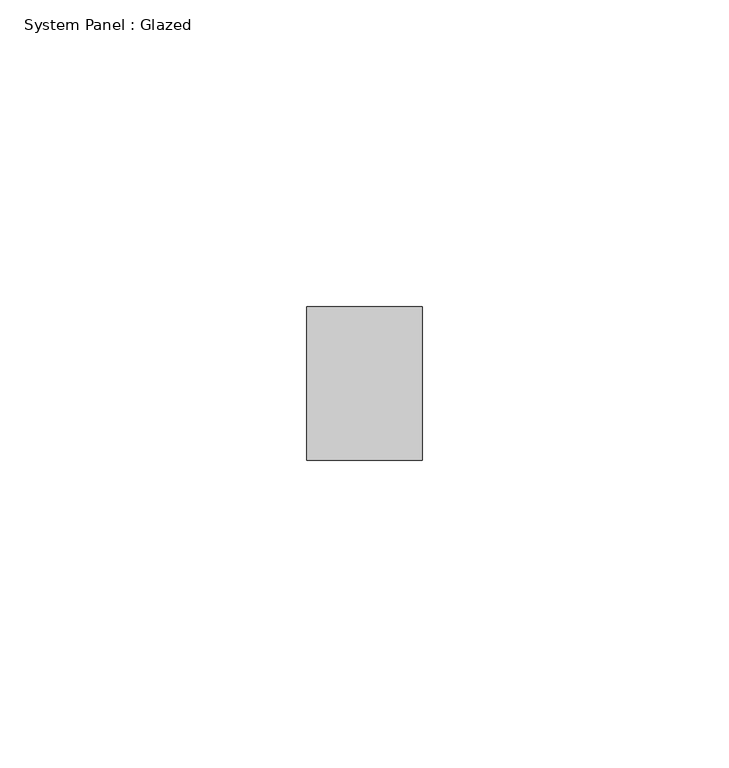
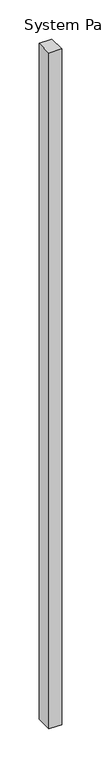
"""IFC4 building model written with IfcOpenShell, lengths in millimetres: plate geometry, System Panel : Glazed."""

from ifc_helpers import new_model, si_unit, origin, origin_with_axes, place, context, project, spatial, polyline, outline, extrude, source, transform, mapped, element, save


def system_panel_glazed_32dad4e2(model_context):
    return source(origin(), model_context, "Body", "SweptSolid", [
        extrude(outline(polyline([(9.4081169, -12.5), (-9.4081169, -12.5), (-9.4081169, 12.5), (9.4081169, 12.5), (9.4081169, -12.5)])), origin_with_axes(), (0.0, 0.0, 1.0), 1055.0),
    ])


if __name__ == "__main__":
    model = new_model("IFC4")
    model_context = context("Model", 3, world=origin())
    ifc_project = project(units=[si_unit("LENGTHUNIT", "METRE", prefix="MILLI")], contexts=[model_context])
    site = spatial("IfcSite", under=ifc_project)
    building = spatial("IfcBuilding", under=site)
    placement = place(None, origin())
    system_panel_glazed_shape = system_panel_glazed_32dad4e2(model_context)
    element("IfcPlate", 1, ObjectType="System Panel : Glazed", at=placement, inside=building, context=model_context, shape_type="MappedRepresentation", body=[
        mapped(system_panel_glazed_shape, transform((0.0, 0.0, 0.0), x_axis=(1.0, 0.0, 0.0), y_axis=(0.0, 1.0, 0.0), z_axis=(0.0, 0.0, 1.0))),
    ])
    save(model, "model.ifc")
